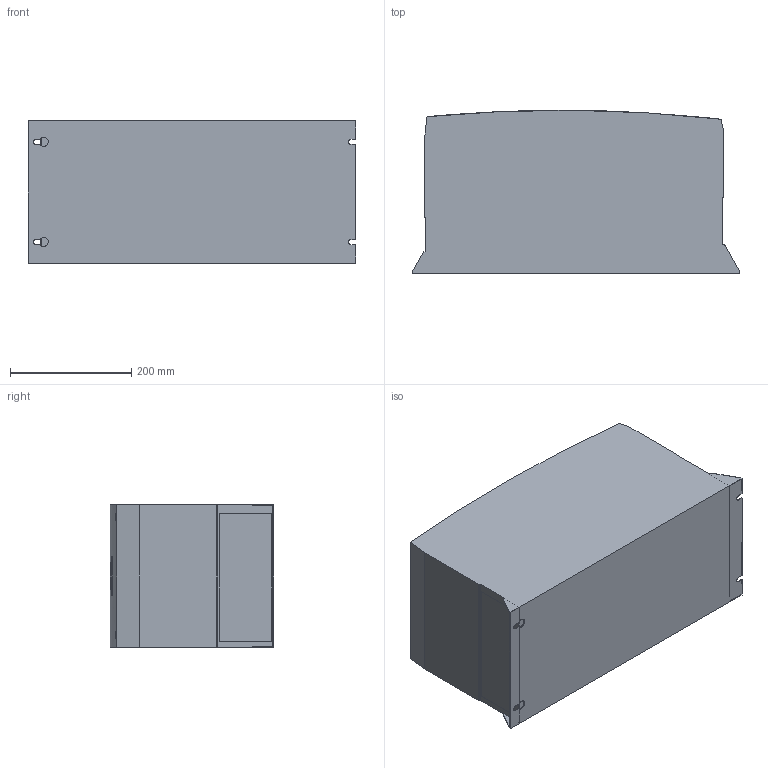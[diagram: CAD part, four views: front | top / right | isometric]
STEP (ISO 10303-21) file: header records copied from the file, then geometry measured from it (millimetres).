
FILE_DESCRIPTION(('CATIA V5 STEP 214'),'2;1');
FILE_NAME('C:\Temp\ddxv7\402843\VERTIMO E SIZE E.stp','2019-05-07T07:34:23+00:00',('Leopold Kostal'),('Kostal GmbH'),'CATIA Version 5 Release 19 SP 9 (IN-10)','CATIA V5 STEP AP214','none');
FILE_SCHEMA(('AUTOMOTIVE_DESIGN { 1 0 10303 214 1 1 1 1 }'));
Length unit declared in the file: millimetre
Products named in the file (1): VERTIMO E SIZE E
Bounding box: 540 x 269.2 x 235 mm (x, y, z)
Volume: 30568627.2 mm3; surface area: 639722.5 mm2
Topology: 1 solids, 1 shells, 267 faces, 772 edges, 536 vertices
Faces by surface type: bspline 106, plane 82, cylinder 79
Entity records: 14740 total; most frequent: CARTESIAN_POINT 7108, ORIENTED_EDGE 1544, EDGE_CURVE 772, DIRECTION 568, VERTEX_POINT 536, B_SPLINE_CURVE_WITH_KNOTS 526, EDGE_LOOP 300, PRESENTATION_STYLE_ASSIGNMENT 268
